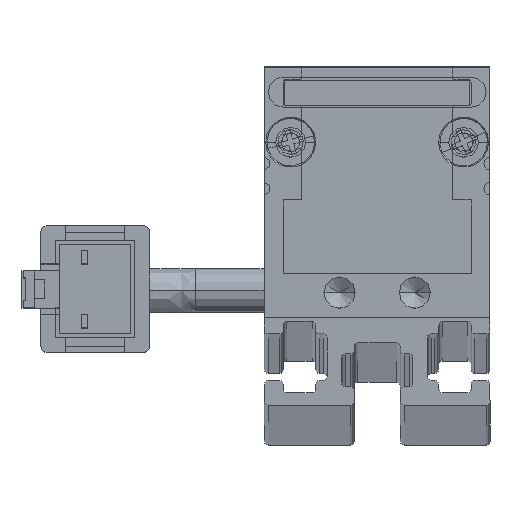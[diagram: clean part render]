
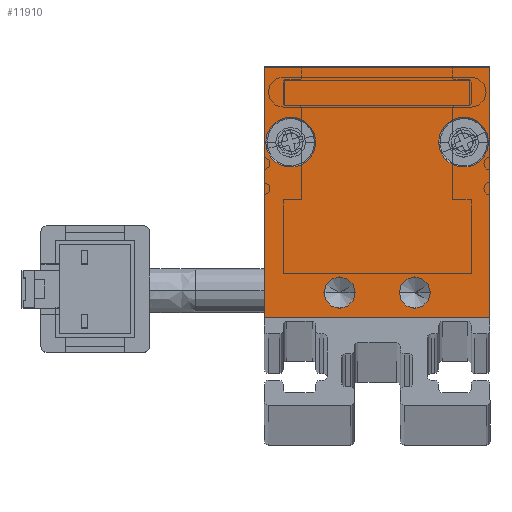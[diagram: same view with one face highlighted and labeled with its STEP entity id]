
A CAD part, top view. The second image highlights one B-rep face of the part: STEP entity #11910.
In plain terms, the highlighted planar face has unit normal (0, 0, 1) as drawn and (0, 0, -1) by its records, which use the part's own axes.
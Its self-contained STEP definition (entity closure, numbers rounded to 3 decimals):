
#115 = AXIS2_PLACEMENT_3D ( 'NONE', #1425, #7092, #11130 ) ;
#418 = CARTESIAN_POINT ( 'NONE',  ( -6.9, 14., -2.5 ) ) ;
#472 = ORIENTED_EDGE ( 'NONE', *, *, #6682, .F. ) ;
#494 = VECTOR ( 'NONE', #8123, 1000. ) ;
#736 = EDGE_CURVE ( 'NONE', #8888, #4628, #6724, .T. ) ;
#759 = AXIS2_PLACEMENT_3D ( 'NONE', #5942, #5878, #9617 ) ;
#990 = DIRECTION ( 'NONE',  ( -1., 0., 0. ) ) ;
#1023 = VERTEX_POINT ( 'NONE', #1687 ) ;
#1041 = ORIENTED_EDGE ( 'NONE', *, *, #10944, .F. ) ;
#1046 = DIRECTION ( 'NONE',  ( 0., 0., -1. ) ) ;
#1252 = EDGE_LOOP ( 'NONE', ( #472, #6434 ) ) ;
#1290 = AXIS2_PLACEMENT_3D ( 'NONE', #11423, #2836, #5862 ) ;
#1409 = CARTESIAN_POINT ( 'NONE',  ( 0., 0., -2.5 ) ) ;
#1425 = CARTESIAN_POINT ( 'NONE',  ( 6.9, 14., -2.5 ) ) ;
#1471 = VERTEX_POINT ( 'NONE', #1549 ) ;
#1475 = LINE ( 'NONE', #7090, #1571 ) ;
#1510 = CARTESIAN_POINT ( 'NONE',  ( -4.9, 14., -2.5 ) ) ;
#1549 = CARTESIAN_POINT ( 'NONE',  ( 8.9, 14., -2.5 ) ) ;
#1571 = VECTOR ( 'NONE', #11127, 1000. ) ;
#1687 = CARTESIAN_POINT ( 'NONE',  ( 4.25, 2., -2.5 ) ) ;
#2170 = EDGE_LOOP ( 'NONE', ( #11216, #9786 ) ) ;
#2178 = DIRECTION ( 'NONE',  ( 0., 0., -1. ) ) ;
#2505 = ORIENTED_EDGE ( 'NONE', *, *, #7068, .F. ) ;
#2532 = FACE_BOUND ( 'NONE', #2170, .T. ) ;
#2599 = DIRECTION ( 'NONE',  ( -1., 0., 0. ) ) ;
#2721 = VERTEX_POINT ( 'NONE', #8646 ) ;
#2787 = CARTESIAN_POINT ( 'NONE',  ( 3., 2., -2.5 ) ) ;
#2836 = DIRECTION ( 'NONE',  ( 0., 0., -1. ) ) ;
#3052 = EDGE_CURVE ( 'NONE', #10256, #1471, #8358, .T. ) ;
#3367 = DIRECTION ( 'NONE',  ( 1., 0., 0. ) ) ;
#3403 = LINE ( 'NONE', #10267, #494 ) ;
#3616 = DIRECTION ( 'NONE',  ( 0., 0., -1. ) ) ;
#3690 = EDGE_CURVE ( 'NONE', #1471, #10256, #4961, .T. ) ;
#4177 = CIRCLE ( 'NONE', #10842, 2. ) ;
#4295 = DIRECTION ( 'NONE',  ( 0., 0., 1. ) ) ;
#4319 = EDGE_CURVE ( 'NONE', #10080, #1023, #7778, .T. ) ;
#4417 = ORIENTED_EDGE ( 'NONE', *, *, #7113, .F. ) ;
#4488 = CARTESIAN_POINT ( 'NONE',  ( 6.9, 14., -2.5 ) ) ;
#4628 = VERTEX_POINT ( 'NONE', #9217 ) ;
#4961 = CIRCLE ( 'NONE', #115, 2. ) ;
#5169 = AXIS2_PLACEMENT_3D ( 'NONE', #5788, #1046, #990 ) ;
#5194 = CIRCLE ( 'NONE', #9842, 1.25 ) ;
#5281 = CARTESIAN_POINT ( 'NONE',  ( -9., 0., -2.5 ) ) ;
#5409 = CIRCLE ( 'NONE', #759, 1.25 ) ;
#5438 = PLANE ( 'NONE',  #11592 ) ;
#5540 = ORIENTED_EDGE ( 'NONE', *, *, #7627, .F. ) ;
#5698 = CARTESIAN_POINT ( 'NONE',  ( -9., 20., -2.5 ) ) ;
#5788 = CARTESIAN_POINT ( 'NONE',  ( -3., 2., -2.5 ) ) ;
#5862 = DIRECTION ( 'NONE',  ( -1., 0., 0. ) ) ;
#5878 = DIRECTION ( 'NONE',  ( 0., 0., -1. ) ) ;
#5941 = AXIS2_PLACEMENT_3D ( 'NONE', #4488, #3616, #2599 ) ;
#5942 = CARTESIAN_POINT ( 'NONE',  ( 3., 2., -2.5 ) ) ;
#5968 = CIRCLE ( 'NONE', #5169, 1.25 ) ;
#6145 = ORIENTED_EDGE ( 'NONE', *, *, #10109, .F. ) ;
#6233 = CARTESIAN_POINT ( 'NONE',  ( 1.75, 2., -2.5 ) ) ;
#6247 = EDGE_LOOP ( 'NONE', ( #2505, #1041 ) ) ;
#6382 = FACE_BOUND ( 'NONE', #9841, .T. ) ;
#6434 = ORIENTED_EDGE ( 'NONE', *, *, #736, .F. ) ;
#6666 = CARTESIAN_POINT ( 'NONE',  ( 4.9, 14., -2.5 ) ) ;
#6682 = EDGE_CURVE ( 'NONE', #4628, #8888, #4177, .T. ) ;
#6708 = DIRECTION ( 'NONE',  ( 1., 0., 0. ) ) ;
#6724 = CIRCLE ( 'NONE', #1290, 2. ) ;
#7018 = VECTOR ( 'NONE', #9927, 1000. ) ;
#7068 = EDGE_CURVE ( 'NONE', #9651, #12159, #5194, .T. ) ;
#7090 = CARTESIAN_POINT ( 'NONE',  ( -9., 20., -2.5 ) ) ;
#7092 = DIRECTION ( 'NONE',  ( 0., 0., -1. ) ) ;
#7113 = EDGE_CURVE ( 'NONE', #2721, #9506, #1475, .T. ) ;
#7240 = DIRECTION ( 'NONE',  ( -1., 0., 0. ) ) ;
#7458 = DIRECTION ( 'NONE',  ( -1., 0., 0. ) ) ;
#7471 = EDGE_CURVE ( 'NONE', #1023, #10080, #5409, .T. ) ;
#7627 = EDGE_CURVE ( 'NONE', #10856, #2721, #7963, .T. ) ;
#7722 = DIRECTION ( 'NONE',  ( -1., 0., 0. ) ) ;
#7778 = CIRCLE ( 'NONE', #9404, 1.25 ) ;
#7802 = CARTESIAN_POINT ( 'NONE',  ( 9., 0., -2.5 ) ) ;
#7886 = CARTESIAN_POINT ( 'NONE',  ( -1.75, 2., -2.5 ) ) ;
#7963 = LINE ( 'NONE', #8394, #7018 ) ;
#8123 = DIRECTION ( 'NONE',  ( 0., -1., 0. ) ) ;
#8152 = FACE_BOUND ( 'NONE', #1252, .T. ) ;
#8358 = CIRCLE ( 'NONE', #5941, 2. ) ;
#8394 = CARTESIAN_POINT ( 'NONE',  ( 9., 20., -2.5 ) ) ;
#8464 = ORIENTED_EDGE ( 'NONE', *, *, #11554, .F. ) ;
#8646 = CARTESIAN_POINT ( 'NONE',  ( 9., 20., -2.5 ) ) ;
#8888 = VERTEX_POINT ( 'NONE', #1510 ) ;
#9217 = CARTESIAN_POINT ( 'NONE',  ( -8.9, 14., -2.5 ) ) ;
#9404 = AXIS2_PLACEMENT_3D ( 'NONE', #2787, #10427, #7458 ) ;
#9506 = VERTEX_POINT ( 'NONE', #5698 ) ;
#9617 = DIRECTION ( 'NONE',  ( -1., 0., 0. ) ) ;
#9634 = CARTESIAN_POINT ( 'NONE',  ( -3., 2., -2.5 ) ) ;
#9651 = VERTEX_POINT ( 'NONE', #11293 ) ;
#9786 = ORIENTED_EDGE ( 'NONE', *, *, #3690, .F. ) ;
#9841 = EDGE_LOOP ( 'NONE', ( #12370, #12022 ) ) ;
#9842 = AXIS2_PLACEMENT_3D ( 'NONE', #9634, #2178, #7722 ) ;
#9927 = DIRECTION ( 'NONE',  ( 0., 1., 0. ) ) ;
#10080 = VERTEX_POINT ( 'NONE', #6233 ) ;
#10109 = EDGE_CURVE ( 'NONE', #9506, #10140, #3403, .T. ) ;
#10140 = VERTEX_POINT ( 'NONE', #5281 ) ;
#10238 = FACE_BOUND ( 'NONE', #6247, .T. ) ;
#10256 = VERTEX_POINT ( 'NONE', #6666 ) ;
#10267 = CARTESIAN_POINT ( 'NONE',  ( -9., 20., -2.5 ) ) ;
#10427 = DIRECTION ( 'NONE',  ( 0., 0., -1. ) ) ;
#10577 = EDGE_LOOP ( 'NONE', ( #6145, #4417, #5540, #8464 ) ) ;
#10842 = AXIS2_PLACEMENT_3D ( 'NONE', #418, #11964, #7240 ) ;
#10856 = VERTEX_POINT ( 'NONE', #7802 ) ;
#10944 = EDGE_CURVE ( 'NONE', #12159, #9651, #5968, .T. ) ;
#11127 = DIRECTION ( 'NONE',  ( -1., 0., 0. ) ) ;
#11130 = DIRECTION ( 'NONE',  ( -1., 0., 0. ) ) ;
#11182 = VECTOR ( 'NONE', #6708, 1000. ) ;
#11216 = ORIENTED_EDGE ( 'NONE', *, *, #3052, .F. ) ;
#11293 = CARTESIAN_POINT ( 'NONE',  ( -4.25, 2., -2.5 ) ) ;
#11423 = CARTESIAN_POINT ( 'NONE',  ( -6.9, 14., -2.5 ) ) ;
#11505 = CARTESIAN_POINT ( 'NONE',  ( -9., 0., -2.5 ) ) ;
#11554 = EDGE_CURVE ( 'NONE', #10140, #10856, #12331, .T. ) ;
#11592 = AXIS2_PLACEMENT_3D ( 'NONE', #1409, #4295, #3367 ) ;
#11910 = ADVANCED_FACE ( 'NONE', ( #2532, #8152, #6382, #10238, #12187 ), #5438, .F. ) ;
#11964 = DIRECTION ( 'NONE',  ( 0., 0., -1. ) ) ;
#12022 = ORIENTED_EDGE ( 'NONE', *, *, #7471, .F. ) ;
#12159 = VERTEX_POINT ( 'NONE', #7886 ) ;
#12187 = FACE_OUTER_BOUND ( 'NONE', #10577, .T. ) ;
#12331 = LINE ( 'NONE', #11505, #11182 ) ;
#12370 = ORIENTED_EDGE ( 'NONE', *, *, #4319, .F. ) ;
